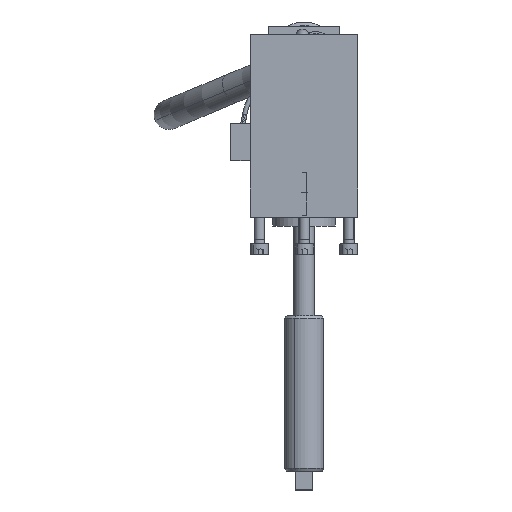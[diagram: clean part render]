
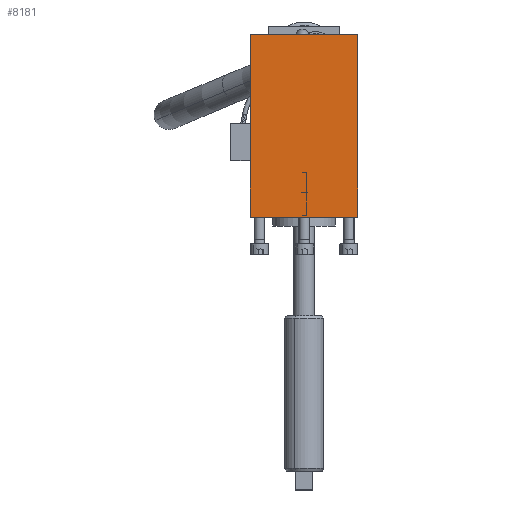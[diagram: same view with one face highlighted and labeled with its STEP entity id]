
A CAD part, top view. The second image highlights one B-rep face of the part: STEP entity #8181.
In plain terms, the highlighted planar face has unit normal (0, 0, 1).
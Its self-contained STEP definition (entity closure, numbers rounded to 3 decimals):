
#7949=CARTESIAN_POINT('Vertex',(-30.,60.,371.1)) ;
#7952=CARTESIAN_POINT('Line Origine',(0.,60.,371.1)) ;
#7956=CARTESIAN_POINT('Vertex',(30.,60.,371.1)) ;
#8114=CARTESIAN_POINT('Line Origine',(30.,9.,371.1)) ;
#8118=CARTESIAN_POINT('Vertex',(30.,-42.,371.1)) ;
#8158=CARTESIAN_POINT('Axis2P3D Location',(-30.,60.,371.1)) ;
#8163=CARTESIAN_POINT('Line Origine',(0.,-42.,371.1)) ;
#8167=CARTESIAN_POINT('Vertex',(-30.,-42.,371.1)) ;
#8170=CARTESIAN_POINT('Line Origine',(-30.,9.,371.1)) ;
#7953=DIRECTION('Vector Direction',(1.,0.,0.)) ;
#8115=DIRECTION('Vector Direction',(0.,-1.,0.)) ;
#8159=DIRECTION('Axis2P3D Direction',(0.,0.,-1.)) ;
#8160=DIRECTION('Axis2P3D XDirection',(1.,0.,0.)) ;
#8164=DIRECTION('Vector Direction',(1.,0.,0.)) ;
#8171=DIRECTION('Vector Direction',(0.,-1.,0.)) ;
#8161=AXIS2_PLACEMENT_3D('Plane Axis2P3D',#8158,#8159,#8160) ;
#8176=ORIENTED_EDGE('',*,*,#8169,.T.) ;
#8177=ORIENTED_EDGE('',*,*,#8120,.F.) ;
#8178=ORIENTED_EDGE('',*,*,#7958,.F.) ;
#8179=ORIENTED_EDGE('',*,*,#8174,.T.) ;
#7954=VECTOR('Line Direction',#7953,1.) ;
#8116=VECTOR('Line Direction',#8115,1.) ;
#8165=VECTOR('Line Direction',#8164,1.) ;
#8172=VECTOR('Line Direction',#8171,1.) ;
#8181=ADVANCED_FACE('',(#8180),#8162,.F.) ;
#7958=EDGE_CURVE('',#7950,#7957,#7955,.T.) ;
#8120=EDGE_CURVE('',#7957,#8119,#8117,.T.) ;
#8169=EDGE_CURVE('',#8168,#8119,#8166,.T.) ;
#8174=EDGE_CURVE('',#7950,#8168,#8173,.T.) ;
#8175=EDGE_LOOP('',(#8176,#8177,#8178,#8179)) ;
#8180=FACE_OUTER_BOUND('',#8175,.T.) ;
#7955=LINE('Line',#7952,#7954) ;
#8117=LINE('Line',#8114,#8116) ;
#8166=LINE('Line',#8163,#8165) ;
#8173=LINE('Line',#8170,#8172) ;
#8162=PLANE('Plane',#8161) ;
#7950=VERTEX_POINT('',#7949) ;
#7957=VERTEX_POINT('',#7956) ;
#8119=VERTEX_POINT('',#8118) ;
#8168=VERTEX_POINT('',#8167) ;
